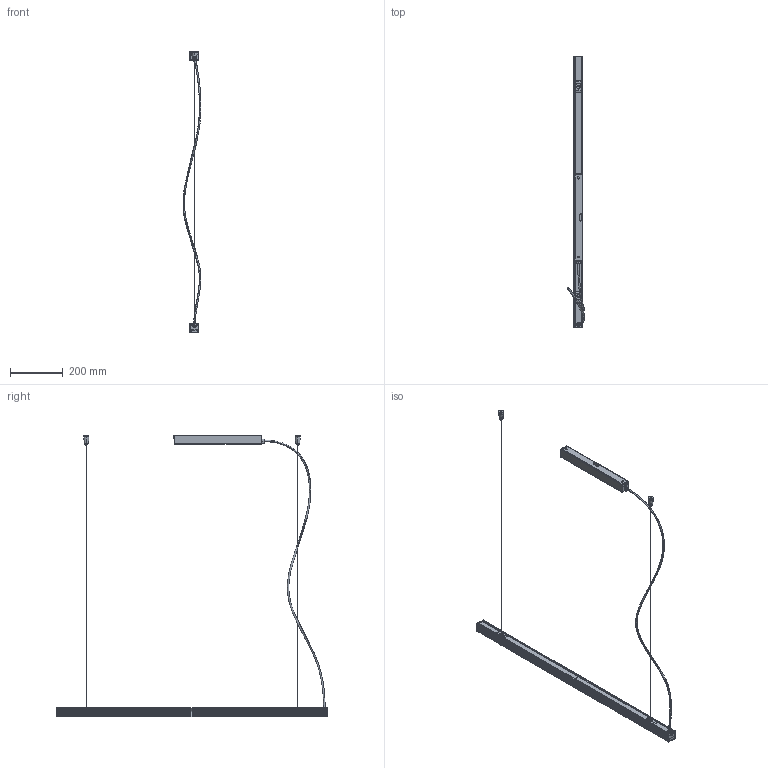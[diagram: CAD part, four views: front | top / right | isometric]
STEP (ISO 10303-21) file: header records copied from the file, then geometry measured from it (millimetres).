
FILE_DESCRIPTION(/* description */ (''),/* implementation_level */ '2;1');
FILE_NAME(/* name */ 'L233__~1',/* time_stamp */ '2024-07-01T14:44:18+02:00',/* author */ (''),/* organization */ (''),/* preprocessor_version */ 'ST-DEVELOPER v16.5',/* originating_system */ '',/* authorisation */ '');
FILE_SCHEMA (('AUTOMOTIVE_DESIGN'));
Length unit declared in the file: millimetre
Products named in the file (1): Document
Bounding box: 67.89 x 1027.4 x 1066.18 mm (x, y, z)
Volume: 401166.2 mm3; surface area: 533093.3 mm2
Topology: 30 solids, 30 shells, 1212 faces, 2958 edges, 1810 vertices
Faces by surface type: bspline 636, plane 576
Entity records: 48110 total; most frequent: CARTESIAN_POINT 29844, ORIENTED_EDGE 5892, EDGE_CURVE 2946, B_SPLINE_CURVE_WITH_KNOTS 1932, VERTEX_POINT 1810, EDGE_LOOP 1294, ADVANCED_FACE 1212, FACE_OUTER_BOUND 1212
